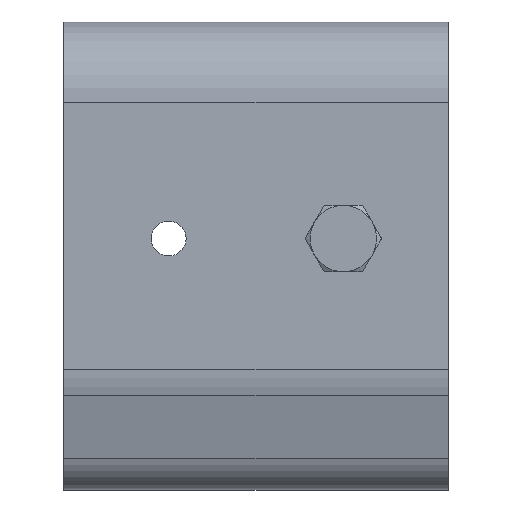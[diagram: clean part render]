
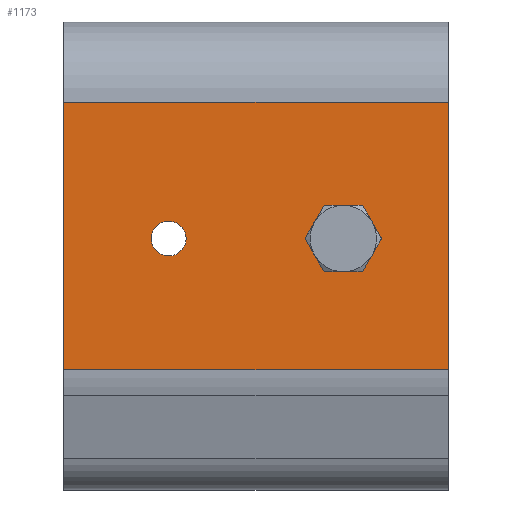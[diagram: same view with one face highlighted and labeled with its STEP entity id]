
A CAD part, left-side view. The second image highlights one B-rep face of the part: STEP entity #1173.
In plain terms, the highlighted planar face has unit normal (-1, 0, 0).
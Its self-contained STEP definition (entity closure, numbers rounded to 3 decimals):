
#57=FACE_BOUND('',#221,.T.);
#58=FACE_BOUND('',#222,.T.);
#129=FACE_OUTER_BOUND('',#220,.T.);
#220=EDGE_LOOP('',(#913,#914,#915,#916));
#221=EDGE_LOOP('',(#917));
#222=EDGE_LOOP('',(#918));
#298=LINE('',#1778,#394);
#324=LINE('',#1857,#420);
#327=LINE('',#1864,#423);
#331=LINE('',#1877,#427);
#394=VECTOR('',#1415,110.);
#420=VECTOR('',#1501,76.6);
#423=VECTOR('',#1508,110.);
#427=VECTOR('',#1528,76.6);
#489=CIRCLE('',#1266,5.);
#491=CIRCLE('',#1269,5.053);
#535=VERTEX_POINT('',#1763);
#538=VERTEX_POINT('',#1771);
#558=VERTEX_POINT('',#1848);
#560=VERTEX_POINT('',#1853);
#561=VERTEX_POINT('',#1856);
#563=VERTEX_POINT('',#1863);
#642=EDGE_CURVE('',#538,#535,#298,.T.);
#675=EDGE_CURVE('',#558,#558,#489,.T.);
#677=EDGE_CURVE('',#560,#560,#491,.T.);
#678=EDGE_CURVE('',#561,#538,#324,.T.);
#682=EDGE_CURVE('',#563,#561,#327,.T.);
#689=EDGE_CURVE('',#535,#563,#331,.T.);
#913=ORIENTED_EDGE('',*,*,#642,.T.);
#914=ORIENTED_EDGE('',*,*,#689,.T.);
#915=ORIENTED_EDGE('',*,*,#682,.T.);
#916=ORIENTED_EDGE('',*,*,#678,.T.);
#917=ORIENTED_EDGE('',*,*,#677,.T.);
#918=ORIENTED_EDGE('',*,*,#675,.T.);
#1109=PLANE('',#1281);
#1173=ADVANCED_FACE('',(#129,#57,#58),#1109,.T.);
#1266=AXIS2_PLACEMENT_3D('',#1849,#1491,#1492);
#1269=AXIS2_PLACEMENT_3D('',#1854,#1497,#1498);
#1281=AXIS2_PLACEMENT_3D('',#1878,#1529,#1530);
#1415=DIRECTION('',(0.,1.,0.));
#1491=DIRECTION('center_axis',(1.,0.,0.));
#1492=DIRECTION('ref_axis',(0.,0.,
-1.));
#1497=DIRECTION('center_axis',(1.,0.,0.));
#1498=DIRECTION('ref_axis',(0.,0.,
1.));
#1501=DIRECTION('',(0.,0.,1.));
#1508=DIRECTION('',(0.,-1.,0.));
#1528=DIRECTION('',(0.,0.,-1.));
#1529=DIRECTION('center_axis',(-1.,0.,0.));
#1530=DIRECTION('ref_axis',(0.,0.,1.));
#1763=CARTESIAN_POINT('',(-57.,55.,-23.));
#1771=CARTESIAN_POINT('',(-57.,-55.,-23.));
#1778=CARTESIAN_POINT('',(-57.,27.5,-23.));
#1848=CARTESIAN_POINT('',(-57.,25.,-57.));
#1849=CARTESIAN_POINT('Origin',(-57.,25.,-62.));
#1853=CARTESIAN_POINT('',(-57.,-25.,-56.947));
#1854=CARTESIAN_POINT('Origin',(-57.,-25.,-62.));
#1856=CARTESIAN_POINT('',(-57.,-55.,-99.6));
#1857=CARTESIAN_POINT('',(-57.,-55.,-149.3));
#1863=CARTESIAN_POINT('',(-57.,55.,-99.6));
#1864=CARTESIAN_POINT('',(-57.,-27.5,-99.6));
#1877=CARTESIAN_POINT('',(-57.,55.,227.3));
#1878=CARTESIAN_POINT('Origin',(-57.,0.,215.225));
